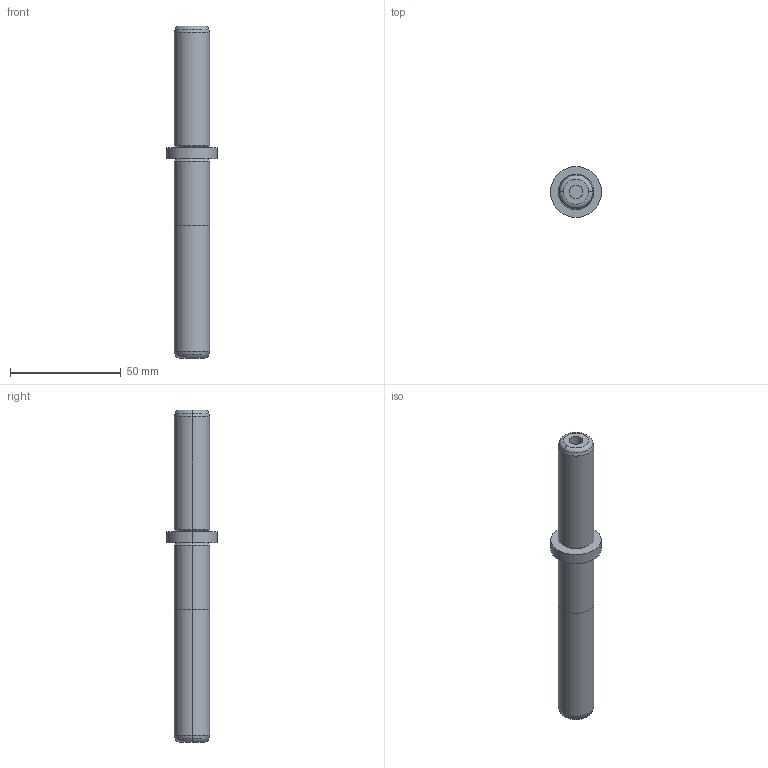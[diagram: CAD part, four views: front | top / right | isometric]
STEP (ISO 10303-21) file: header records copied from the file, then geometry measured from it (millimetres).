
FILE_DESCRIPTION(/* description */ (''),/* implementation_level */ '2;1');
FILE_NAME(/* name */ '3d_sgpwh16-90-60-b30_05306_r00.stp',/* time_stamp */ '2011-01-10T14:11:02+09:00',/* author */ ('MISUMI'),/* organization */ (''),/* preprocessor_version */ 'ST-DEVELOPER v11',/* originating_system */ 'UGS - NX 5.0',/* authorisation */ '');
FILE_SCHEMA (('CONFIG_CONTROL_DESIGN'));
Length unit declared in the file: millimetre
Products named in the file (1): 3d_sgpwh16-90-60-b30_05306_r00
Bounding box: 23 x 23 x 150 mm (x, y, z)
Volume: 29612.9 mm3; surface area: 9425.3 mm2
Topology: 1 solids, 1 shells, 30 faces, 58 edges, 34 vertices
Faces by surface type: cylinder 12, cone 8, plane 6, torus 4
Entity records: 854 total; most frequent: DIRECTION 158, CARTESIAN_POINT 123, ORIENTED_EDGE 116, AXIS2_PLACEMENT_3D 69, EDGE_CURVE 58, CIRCLE 38, EDGE_LOOP 34, VERTEX_POINT 34
